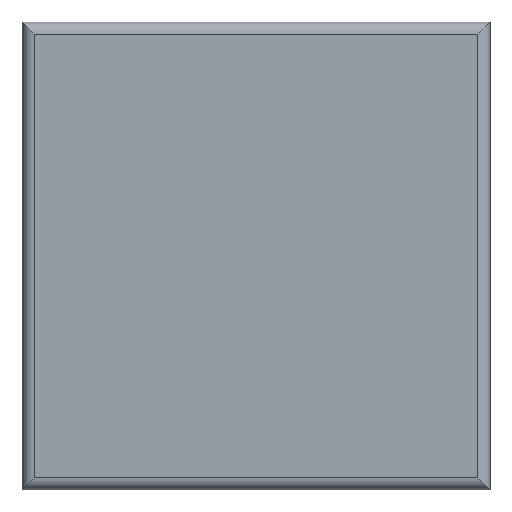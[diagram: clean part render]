
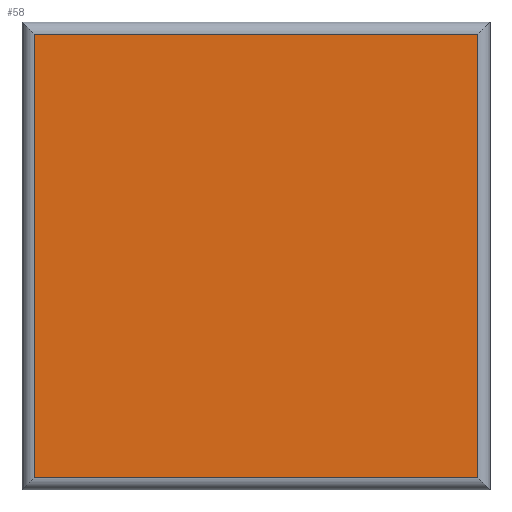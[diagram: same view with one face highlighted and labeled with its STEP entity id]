
A CAD part, top view. The second image highlights one B-rep face of the part: STEP entity #58.
In plain terms, the highlighted planar face has unit normal (0, 0, 1).
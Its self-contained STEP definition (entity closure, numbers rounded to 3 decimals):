
#58=ADVANCED_FACE('',(#112),#114,.T.);
#112=FACE_BOUND('',#113,.T.);
#113=EDGE_LOOP('',(#154,#155,#156,#157));
#114=PLANE('',#115);
#115=AXIS2_PLACEMENT_3D('',#116,#117,#118);
#116=CARTESIAN_POINT('',(0.,0.,1.));
#117=DIRECTION('',(0.,0.,1.));
#118=DIRECTION('',(1.,0.,0.));
#154=ORIENTED_EDGE('',*,*,#178,.T.);
#155=ORIENTED_EDGE('',*,*,#179,.T.);
#156=ORIENTED_EDGE('',*,*,#180,.T.);
#157=ORIENTED_EDGE('',*,*,#181,.T.);
#178=EDGE_CURVE('',#190,#191,#192,.T.);
#179=EDGE_CURVE('',#191,#193,#194,.T.);
#180=EDGE_CURVE('',#193,#195,#196,.T.);
#181=EDGE_CURVE('',#195,#190,#197,.T.);
#190=VERTEX_POINT('',#210);
#191=VERTEX_POINT('',#211);
#192=LINE('',#212,#213);
#193=VERTEX_POINT('',#215);
#194=LINE('',#216,#217);
#195=VERTEX_POINT('',#219);
#196=LINE('',#220,#221);
#197=LINE('',#223,#224);
#210=CARTESIAN_POINT('',(37.,-37.,1.));
#211=CARTESIAN_POINT('',(37.,-1.,1.));
#212=CARTESIAN_POINT('',(37.,-37.,1.));
#213=VECTOR('',#214,1.);
#214=DIRECTION('',(0.,1.,0.));
#215=CARTESIAN_POINT('',(1.,-1.,1.));
#216=CARTESIAN_POINT('',(37.,-1.,1.));
#217=VECTOR('',#218,1.);
#218=DIRECTION('',(-1.,0.,0.));
#219=CARTESIAN_POINT('',(1.,-37.,1.));
#220=CARTESIAN_POINT('',(1.,-1.,1.));
#221=VECTOR('',#222,1.);
#222=DIRECTION('',(0.,-1.,0.));
#223=CARTESIAN_POINT('',(1.,-37.,1.));
#224=VECTOR('',#225,1.);
#225=DIRECTION('',(1.,0.,0.));
